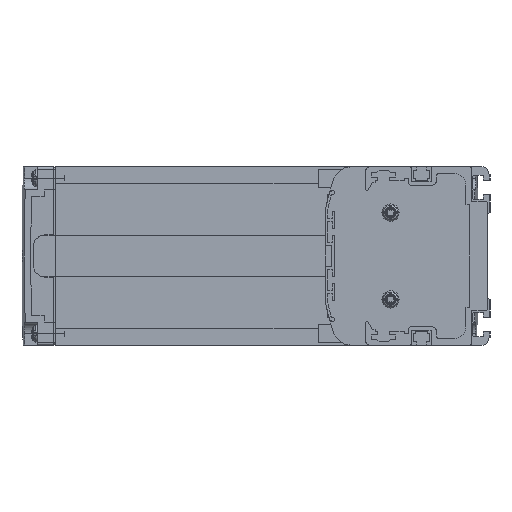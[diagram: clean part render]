
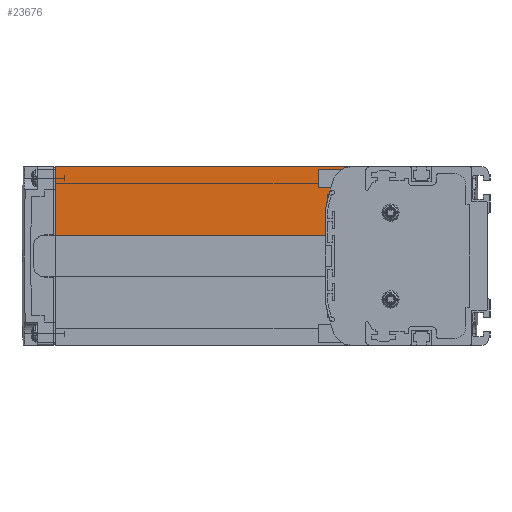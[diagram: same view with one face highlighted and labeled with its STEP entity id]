
A CAD part, left-side view. The second image highlights one B-rep face of the part: STEP entity #23676.
In plain terms, the highlighted planar face has unit normal (-1, 0, 0).
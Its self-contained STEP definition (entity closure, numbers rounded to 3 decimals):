
#1229=DIRECTION('',(0.,-1.,0.));
#1230=VECTOR('',#1229,0.571);
#1231=CARTESIAN_POINT('',(3.,71.,27.));
#1232=LINE('',#1231,#1230);
#1241=DIRECTION('',(0.,0.,1.));
#1242=VECTOR('',#1241,2.224);
#1243=CARTESIAN_POINT('',(3.,71.,24.776));
#1244=LINE('',#1243,#1242);
#1261=DIRECTION('',(0.,0.,-1.));
#1262=VECTOR('',#1261,29.9);
#1263=CARTESIAN_POINT('',(3.,190.,39.));
#1264=LINE('',#1263,#1262);
#5220=DIRECTION('',(0.,-1.,0.));
#5221=VECTOR('',#5220,129.245);
#5222=CARTESIAN_POINT('',(3.,190.,39.));
#5223=LINE('',#5222,#5221);
#6494=DIRECTION('',(0.,0.,-1.));
#6495=VECTOR('',#6494,10.723);
#6496=CARTESIAN_POINT('',(3.,72.,19.823));
#6497=LINE('',#6496,#6495);
#6510=CARTESIAN_POINT('',(3.,70.,19.823));
#6511=DIRECTION('',(1.,0.,0.));
#6512=DIRECTION('',(0.,1.,0.));
#6513=AXIS2_PLACEMENT_3D('',#6510,#6511,#6512);
#6519=CARTESIAN_POINT('',(3.,-6.765,6.));
#6520=DIRECTION('',(1.,0.,0.));
#6521=DIRECTION('',(0.,0.984,0.177));
#6522=AXIS2_PLACEMENT_3D('',#6519,#6520,#6521);
#6524=CARTESIAN_POINT('',(3.,-6.765,6.));
#6525=DIRECTION('',(1.,0.,0.));
#6526=DIRECTION('',(0.,0.965,0.263));
#6527=AXIS2_PLACEMENT_3D('',#6524,#6525,#6526);
#6533=CARTESIAN_POINT('',(3.,60.755,31.));
#6534=DIRECTION('',(-1.,0.,0.));
#6535=DIRECTION('',(0.,0.,1.));
#6536=AXIS2_PLACEMENT_3D('',#6533,#6534,#6535);
#11421=DIRECTION('',(0.,-1.,0.));
#11422=VECTOR('',#11421,118.);
#11423=CARTESIAN_POINT('',(3.,190.,9.1));
#11424=LINE('',#11423,#11422);
#17634=CARTESIAN_POINT('',(3.,190.,39.));
#17635=VERTEX_POINT('',#17634);
#17636=CARTESIAN_POINT('',(3.,190.,9.1));
#17637=VERTEX_POINT('',#17636);
#17666=CARTESIAN_POINT('',(3.,71.,27.));
#17668=VERTEX_POINT('',#17666);
#21648=CARTESIAN_POINT('',(3.,70.429,27.));
#21650=VERTEX_POINT('',#21648);
#21657=CARTESIAN_POINT('',(3.,71.,24.776));
#21659=VERTEX_POINT('',#21657);
#21667=CARTESIAN_POINT('',(3.,72.,9.1));
#21668=VERTEX_POINT('',#21667);
#21677=CARTESIAN_POINT('',(3.,72.,19.823));
#21678=CARTESIAN_POINT('',(3.,71.968,20.177));
#21679=VERTEX_POINT('',#21677);
#21680=VERTEX_POINT('',#21678);
#21681=CARTESIAN_POINT('',(3.,68.257,33.778));
#21682=VERTEX_POINT('',#21681);
#21683=CARTESIAN_POINT('',(3.,60.755,39.));
#21684=VERTEX_POINT('',#21683);
#23651=CARTESIAN_POINT('',(3.,105.,24.05));
#23652=DIRECTION('',(1.,0.,0.));
#23653=DIRECTION('',(0.,0.,1.));
#23654=AXIS2_PLACEMENT_3D('',#23651,#23652,#23653);
#23655=PLANE('',#23654);
#23657=ORIENTED_EDGE('',*,*,#23656,.F.);
#23659=ORIENTED_EDGE('',*,*,#23658,.T.);
#23661=ORIENTED_EDGE('',*,*,#23660,.F.);
#23663=ORIENTED_EDGE('',*,*,#23662,.F.);
#23665=ORIENTED_EDGE('',*,*,#23664,.T.);
#23667=ORIENTED_EDGE('',*,*,#23666,.T.);
#23669=ORIENTED_EDGE('',*,*,#23668,.F.);
#23670=ORIENTED_EDGE('',*,*,#23600,.F.);
#23671=ORIENTED_EDGE('',*,*,#23618,.F.);
#23673=ORIENTED_EDGE('',*,*,#23672,.F.);
#23674=EDGE_LOOP('',(#23657,#23659,#23661,#23663,#23665,#23667,#23669,#23670,
#23671,#23673));
#23675=FACE_OUTER_BOUND('',#23674,.F.);
#23676=ADVANCED_FACE('',(#23675),#23655,.F.);
#6514=CIRCLE('',#6513,2.);
#6523=CIRCLE('',#6522,80.);
#6528=CIRCLE('',#6527,80.);
#6537=CIRCLE('',#6536,8.);
#23600=EDGE_CURVE('',#17668,#21650,#1232,.T.);
#23618=EDGE_CURVE('',#21659,#17668,#1244,.T.);
#23656=EDGE_CURVE('',#21679,#21680,#6514,.T.);
#23658=EDGE_CURVE('',#21679,#21668,#6497,.T.);
#23660=EDGE_CURVE('',#17637,#21668,#11424,.T.);
#23662=EDGE_CURVE('',#17635,#17637,#1264,.T.);
#23664=EDGE_CURVE('',#17635,#21684,#5223,.T.);
#23666=EDGE_CURVE('',#21684,#21682,#6537,.T.);
#23668=EDGE_CURVE('',#21650,#21682,#6528,.T.);
#23672=EDGE_CURVE('',#21680,#21659,#6523,.T.);
